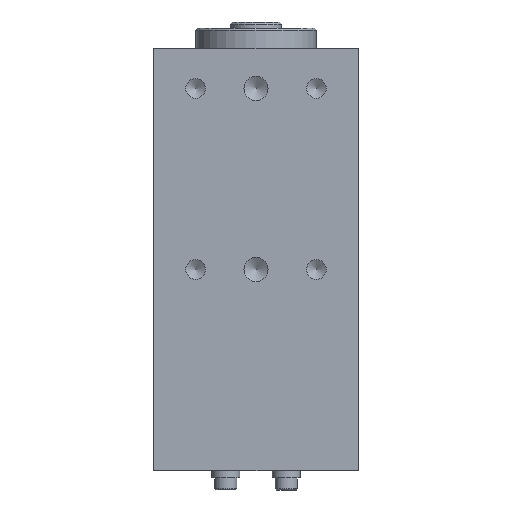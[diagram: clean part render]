
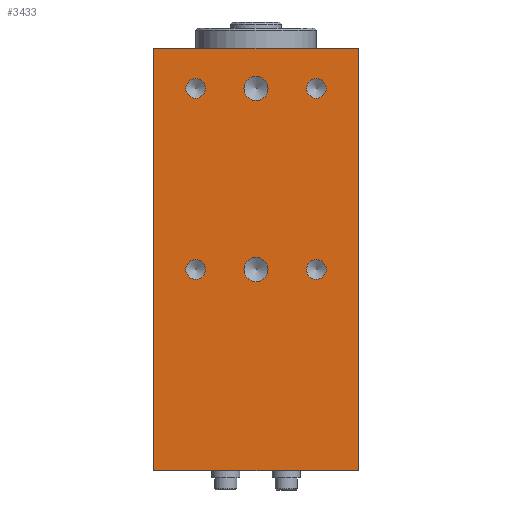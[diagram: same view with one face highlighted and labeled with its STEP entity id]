
A CAD part, front view. The second image highlights one B-rep face of the part: STEP entity #3433.
In plain terms, the highlighted planar face has unit normal (0, -1, 0) as drawn and (1, 0, 0) by its records, which use the part's own axes.
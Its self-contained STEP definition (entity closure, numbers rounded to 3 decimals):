
#244=FACE_BOUND('',#768,.T.);
#245=FACE_BOUND('',#769,.T.);
#246=FACE_BOUND('',#770,.T.);
#247=FACE_BOUND('',#771,.T.);
#248=FACE_BOUND('',#772,.T.);
#249=FACE_BOUND('',#773,.T.);
#332=PLANE('',#3920);
#551=FACE_OUTER_BOUND('',#767,.T.);
#767=EDGE_LOOP('',(#3099,#3100,#3101,#3102));
#768=EDGE_LOOP('',(#3103,#3104));
#769=EDGE_LOOP('',(#3105,#3106));
#770=EDGE_LOOP('',(#3107,#3108));
#771=EDGE_LOOP('',(#3109,#3110));
#772=EDGE_LOOP('',(#3111,#3112));
#773=EDGE_LOOP('',(#3113,#3114));
#887=LINE('',#5426,#1121);
#985=LINE('',#5933,#1219);
#997=LINE('',#5955,#1231);
#998=LINE('',#5957,#1232);
#1121=VECTOR('',#4392,10.);
#1219=VECTOR('',#4846,10.);
#1231=VECTOR('',#4878,10.);
#1232=VECTOR('',#4881,10.);
#1424=CIRCLE('',#3789,2.459);
#1425=CIRCLE('',#3790,2.459);
#1428=CIRCLE('',#3795,2.459);
#1429=CIRCLE('',#3796,2.459);
#1432=CIRCLE('',#3801,2.459);
#1433=CIRCLE('',#3802,2.459);
#1436=CIRCLE('',#3807,2.459);
#1437=CIRCLE('',#3808,2.459);
#1440=CIRCLE('',#3813,3.);
#1441=CIRCLE('',#3814,3.);
#1444=CIRCLE('',#3819,3.);
#1445=CIRCLE('',#3820,3.);
#1644=VERTEX_POINT('',#5423);
#1645=VERTEX_POINT('',#5425);
#1694=VERTEX_POINT('',#5568);
#1695=VERTEX_POINT('',#5569);
#1699=VERTEX_POINT('',#5581);
#1700=VERTEX_POINT('',#5582);
#1704=VERTEX_POINT('',#5594);
#1705=VERTEX_POINT('',#5595);
#1709=VERTEX_POINT('',#5607);
#1710=VERTEX_POINT('',#5608);
#1714=VERTEX_POINT('',#5620);
#1715=VERTEX_POINT('',#5621);
#1719=VERTEX_POINT('',#5633);
#1720=VERTEX_POINT('',#5634);
#1795=VERTEX_POINT('',#5930);
#1796=VERTEX_POINT('',#5932);
#2019=EDGE_CURVE('',#1644,#1645,#887,.T.);
#2092=EDGE_CURVE('',#1694,#1695,#1424,.T.);
#2093=EDGE_CURVE('',#1695,#1694,#1425,.T.);
#2098=EDGE_CURVE('',#1699,#1700,#1428,.T.);
#2099=EDGE_CURVE('',#1700,#1699,#1429,.T.);
#2104=EDGE_CURVE('',#1704,#1705,#1432,.T.);
#2105=EDGE_CURVE('',#1705,#1704,#1433,.T.);
#2110=EDGE_CURVE('',#1709,#1710,#1436,.T.);
#2111=EDGE_CURVE('',#1710,#1709,#1437,.T.);
#2116=EDGE_CURVE('',#1714,#1715,#1440,.T.);
#2117=EDGE_CURVE('',#1715,#1714,#1441,.T.);
#2122=EDGE_CURVE('',#1719,#1720,#1444,.T.);
#2123=EDGE_CURVE('',#1720,#1719,#1445,.T.);
#2230=EDGE_CURVE('',#1795,#1796,#985,.T.);
#2242=EDGE_CURVE('',#1645,#1795,#997,.T.);
#2243=EDGE_CURVE('',#1644,#1796,#998,.T.);
#3099=ORIENTED_EDGE('',*,*,#2019,.F.);
#3100=ORIENTED_EDGE('',*,*,#2243,.T.);
#3101=ORIENTED_EDGE('',*,*,#2230,.F.);
#3102=ORIENTED_EDGE('',*,*,#2242,.F.);
#3103=ORIENTED_EDGE('',*,*,#2092,.T.);
#3104=ORIENTED_EDGE('',*,*,#2093,.T.);
#3105=ORIENTED_EDGE('',*,*,#2098,.T.);
#3106=ORIENTED_EDGE('',*,*,#2099,.T.);
#3107=ORIENTED_EDGE('',*,*,#2104,.T.);
#3108=ORIENTED_EDGE('',*,*,#2105,.T.);
#3109=ORIENTED_EDGE('',*,*,#2110,.T.);
#3110=ORIENTED_EDGE('',*,*,#2111,.T.);
#3111=ORIENTED_EDGE('',*,*,#2116,.T.);
#3112=ORIENTED_EDGE('',*,*,#2117,.T.);
#3113=ORIENTED_EDGE('',*,*,#2122,.T.);
#3114=ORIENTED_EDGE('',*,*,#2123,.T.);
#3433=ADVANCED_FACE('',(#551,#244,#245,#246,#247,#248,#249),#332,.T.);
#3789=AXIS2_PLACEMENT_3D('',#5570,#4546,#4547);
#3790=AXIS2_PLACEMENT_3D('',#5571,#4548,#4549);
#3795=AXIS2_PLACEMENT_3D('',#5583,#4560,#4561);
#3796=AXIS2_PLACEMENT_3D('',#5584,#4562,#4563);
#3801=AXIS2_PLACEMENT_3D('',#5596,#4574,#4575);
#3802=AXIS2_PLACEMENT_3D('',#5597,#4576,#4577);
#3807=AXIS2_PLACEMENT_3D('',#5609,#4588,#4589);
#3808=AXIS2_PLACEMENT_3D('',#5610,#4590,#4591);
#3813=AXIS2_PLACEMENT_3D('',#5622,#4602,#4603);
#3814=AXIS2_PLACEMENT_3D('',#5623,#4604,#4605);
#3819=AXIS2_PLACEMENT_3D('',#5635,#4616,#4617);
#3820=AXIS2_PLACEMENT_3D('',#5636,#4618,#4619);
#3920=AXIS2_PLACEMENT_3D('',#5961,#4887,#4888);
#4392=DIRECTION('',(0.,-1.,0.));
#4546=DIRECTION('center_axis',(-1.,0.,0.));
#4547=DIRECTION('ref_axis',(0.,0.,-1.));
#4548=DIRECTION('center_axis',(-1.,0.,0.));
#4549=DIRECTION('ref_axis',(0.,0.,-1.));
#4560=DIRECTION('center_axis',(-1.,0.,0.));
#4561=DIRECTION('ref_axis',(0.,0.,-1.));
#4562=DIRECTION('center_axis',(-1.,0.,0.));
#4563=DIRECTION('ref_axis',(0.,0.,-1.));
#4574=DIRECTION('center_axis',(-1.,0.,0.));
#4575=DIRECTION('ref_axis',(0.,0.,-1.));
#4576=DIRECTION('center_axis',(-1.,0.,0.));
#4577=DIRECTION('ref_axis',(0.,0.,-1.));
#4588=DIRECTION('center_axis',(-1.,0.,0.));
#4589=DIRECTION('ref_axis',(0.,0.,-1.));
#4590=DIRECTION('center_axis',(-1.,0.,0.));
#4591=DIRECTION('ref_axis',(0.,0.,-1.));
#4602=DIRECTION('center_axis',(-1.,0.,0.));
#4603=DIRECTION('ref_axis',(0.,0.,-1.));
#4604=DIRECTION('center_axis',(-1.,0.,0.));
#4605=DIRECTION('ref_axis',(0.,0.,-1.));
#4616=DIRECTION('center_axis',(-1.,0.,0.));
#4617=DIRECTION('ref_axis',(0.,0.,-1.));
#4618=DIRECTION('center_axis',(-1.,0.,0.));
#4619=DIRECTION('ref_axis',(0.,0.,-1.));
#4846=DIRECTION('',(0.,1.,0.));
#4878=DIRECTION('',(0.,0.,1.));
#4881=DIRECTION('',(0.,0.,1.));
#4887=DIRECTION('center_axis',(1.,0.,0.));
#4888=DIRECTION('ref_axis',(0.,1.,0.));
#5423=CARTESIAN_POINT('',(37.,25.4,0.));
#5425=CARTESIAN_POINT('',(37.,-25.4,0.));
#5426=CARTESIAN_POINT('',(37.,25.4,0.));
#5568=CARTESIAN_POINT('',(37.,15.,47.542));
#5569=CARTESIAN_POINT('',(37.,15.,52.459));
#5570=CARTESIAN_POINT('Origin',(37.,15.,50.));
#5571=CARTESIAN_POINT('Origin',(37.,15.,50.));
#5581=CARTESIAN_POINT('',(37.,-15.,92.542));
#5582=CARTESIAN_POINT('',(37.,-15.,97.459));
#5583=CARTESIAN_POINT('Origin',(37.,-15.,95.));
#5584=CARTESIAN_POINT('Origin',(37.,-15.,95.));
#5594=CARTESIAN_POINT('',(37.,-15.,47.542));
#5595=CARTESIAN_POINT('',(37.,-15.,52.459));
#5596=CARTESIAN_POINT('Origin',(37.,-15.,50.));
#5597=CARTESIAN_POINT('Origin',(37.,-15.,50.));
#5607=CARTESIAN_POINT('',(37.,15.,92.542));
#5608=CARTESIAN_POINT('',(37.,15.,97.459));
#5609=CARTESIAN_POINT('Origin',(37.,15.,95.));
#5610=CARTESIAN_POINT('Origin',(37.,15.,95.));
#5620=CARTESIAN_POINT('',(37.,0.,92.));
#5621=CARTESIAN_POINT('',(37.,0.,98.));
#5622=CARTESIAN_POINT('Origin',(37.,0.,95.));
#5623=CARTESIAN_POINT('Origin',(37.,0.,95.));
#5633=CARTESIAN_POINT('',(37.,0.,47.));
#5634=CARTESIAN_POINT('',(37.,0.,53.));
#5635=CARTESIAN_POINT('Origin',(37.,0.,50.));
#5636=CARTESIAN_POINT('Origin',(37.,0.,50.));
#5930=CARTESIAN_POINT('',(37.,-25.4,105.));
#5932=CARTESIAN_POINT('',(37.,25.4,105.));
#5933=CARTESIAN_POINT('',(37.,25.4,105.));
#5955=CARTESIAN_POINT('',(37.,-25.4,0.));
#5957=CARTESIAN_POINT('',(37.,25.4,0.));
#5961=CARTESIAN_POINT('Origin',(37.,-25.4,0.));
